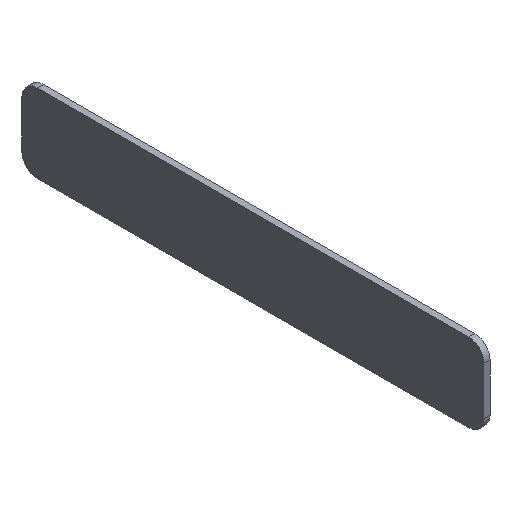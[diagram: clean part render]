
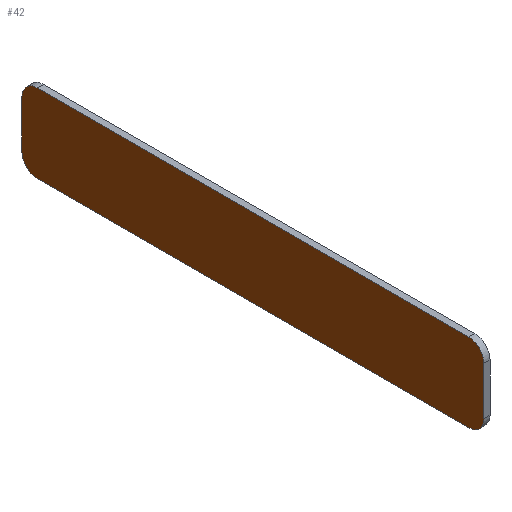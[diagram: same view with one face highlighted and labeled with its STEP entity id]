
A CAD part, isometric view. The second image highlights one B-rep face of the part: STEP entity #42.
In plain terms, the highlighted planar face has unit normal (-1, 0, 0).
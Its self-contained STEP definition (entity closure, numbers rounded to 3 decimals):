
#42 = ADVANCED_FACE( '', ( #83 ), #84, .F. );
#83 = FACE_OUTER_BOUND( '', #120, .T. );
#84 = PLANE( '', #121 );
#120 = EDGE_LOOP( '', ( #175, #176, #177, #178, #179, #180, #181, #182 ) );
#121 = AXIS2_PLACEMENT_3D( '', #183, #184, #185 );
#175 = ORIENTED_EDGE( '', *, *, #227, .F. );
#176 = ORIENTED_EDGE( '', *, *, #248, .F. );
#177 = ORIENTED_EDGE( '', *, *, #249, .F. );
#178 = ORIENTED_EDGE( '', *, *, #250, .F. );
#179 = ORIENTED_EDGE( '', *, *, #237, .F. );
#180 = ORIENTED_EDGE( '', *, *, #251, .F. );
#181 = ORIENTED_EDGE( '', *, *, #232, .F. );
#182 = ORIENTED_EDGE( '', *, *, #252, .F. );
#183 = CARTESIAN_POINT( '', ( 13.1, 115.25, -19.75 ) );
#184 = DIRECTION( '', ( 1., 0., 0. ) );
#185 = DIRECTION( '', ( 0., 1., 0. ) );
#227 = EDGE_CURVE( '', #261, #262, #263, .T. );
#232 = EDGE_CURVE( '', #270, #271, #272, .T. );
#237 = EDGE_CURVE( '', #279, #280, #281, .T. );
#248 = EDGE_CURVE( '', #296, #261, #297, .T. );
#249 = EDGE_CURVE( '', #298, #296, #299, .T. );
#250 = EDGE_CURVE( '', #280, #298, #300, .T. );
#251 = EDGE_CURVE( '', #271, #279, #301, .T. );
#252 = EDGE_CURVE( '', #262, #270, #302, .T. );
#261 = VERTEX_POINT( '', #311 );
#262 = VERTEX_POINT( '', #312 );
#263 = CIRCLE( '', #313, 1.75 );
#270 = VERTEX_POINT( '', #322 );
#271 = VERTEX_POINT( '', #323 );
#272 = CIRCLE( '', #324, 1.75 );
#279 = VERTEX_POINT( '', #333 );
#280 = VERTEX_POINT( '', #334 );
#281 = CIRCLE( '', #335, 1.75 );
#296 = VERTEX_POINT( '', #356 );
#297 = LINE( '', #357, #358 );
#298 = VERTEX_POINT( '', #359 );
#299 = CIRCLE( '', #360, 1.75 );
#300 = LINE( '', #361, #362 );
#301 = LINE( '', #363, #364 );
#302 = LINE( '', #365, #366 );
#311 = CARTESIAN_POINT( '', ( 13.1, 113.5, -19.75 ) );
#312 = CARTESIAN_POINT( '', ( 13.1, 115.25, -21.5 ) );
#313 = AXIS2_PLACEMENT_3D( '', #376, #377, #378 );
#322 = CARTESIAN_POINT( '', ( 13.1, 164.75, -21.5 ) );
#323 = CARTESIAN_POINT( '', ( 13.1, 166.5, -19.75 ) );
#324 = AXIS2_PLACEMENT_3D( '', #384, #385, #386 );
#333 = CARTESIAN_POINT( '', ( 13.1, 166.5, -14.25 ) );
#334 = CARTESIAN_POINT( '', ( 13.1, 164.75, -12.5 ) );
#335 = AXIS2_PLACEMENT_3D( '', #392, #393, #394 );
#356 = CARTESIAN_POINT( '', ( 13.1, 113.5, -14.25 ) );
#357 = CARTESIAN_POINT( '', ( 13.1, 113.5, -14.25 ) );
#358 = VECTOR( '', #407, 1000. );
#359 = CARTESIAN_POINT( '', ( 13.1, 115.25, -12.5 ) );
#360 = AXIS2_PLACEMENT_3D( '', #408, #409, #410 );
#361 = CARTESIAN_POINT( '', ( 13.1, 164.75, -12.5 ) );
#362 = VECTOR( '', #411, 1000. );
#363 = CARTESIAN_POINT( '', ( 13.1, 166.5, -19.75 ) );
#364 = VECTOR( '', #412, 1000. );
#365 = CARTESIAN_POINT( '', ( 13.1, 115.25, -21.5 ) );
#366 = VECTOR( '', #413, 1000. );
#376 = CARTESIAN_POINT( '', ( 13.1, 115.25, -19.75 ) );
#377 = DIRECTION( '', ( 1., 0., 0. ) );
#378 = DIRECTION( '', ( 0., 1., 0. ) );
#384 = CARTESIAN_POINT( '', ( 13.1, 164.75, -19.75 ) );
#385 = DIRECTION( '', ( 1., 0., 0. ) );
#386 = DIRECTION( '', ( 0., -1., 0. ) );
#392 = CARTESIAN_POINT( '', ( 13.1, 164.75, -14.25 ) );
#393 = DIRECTION( '', ( 1., 0., 0. ) );
#394 = DIRECTION( '', ( 0., 1., 0. ) );
#407 = DIRECTION( '', ( 0., 0., -1. ) );
#408 = CARTESIAN_POINT( '', ( 13.1, 115.25, -14.25 ) );
#409 = DIRECTION( '', ( 1., 0., 0. ) );
#410 = DIRECTION( '', ( 0., 1., 0. ) );
#411 = DIRECTION( '', ( 0., -1., 0. ) );
#412 = DIRECTION( '', ( 0., 0., 1. ) );
#413 = DIRECTION( '', ( 0., 1., 0. ) );
